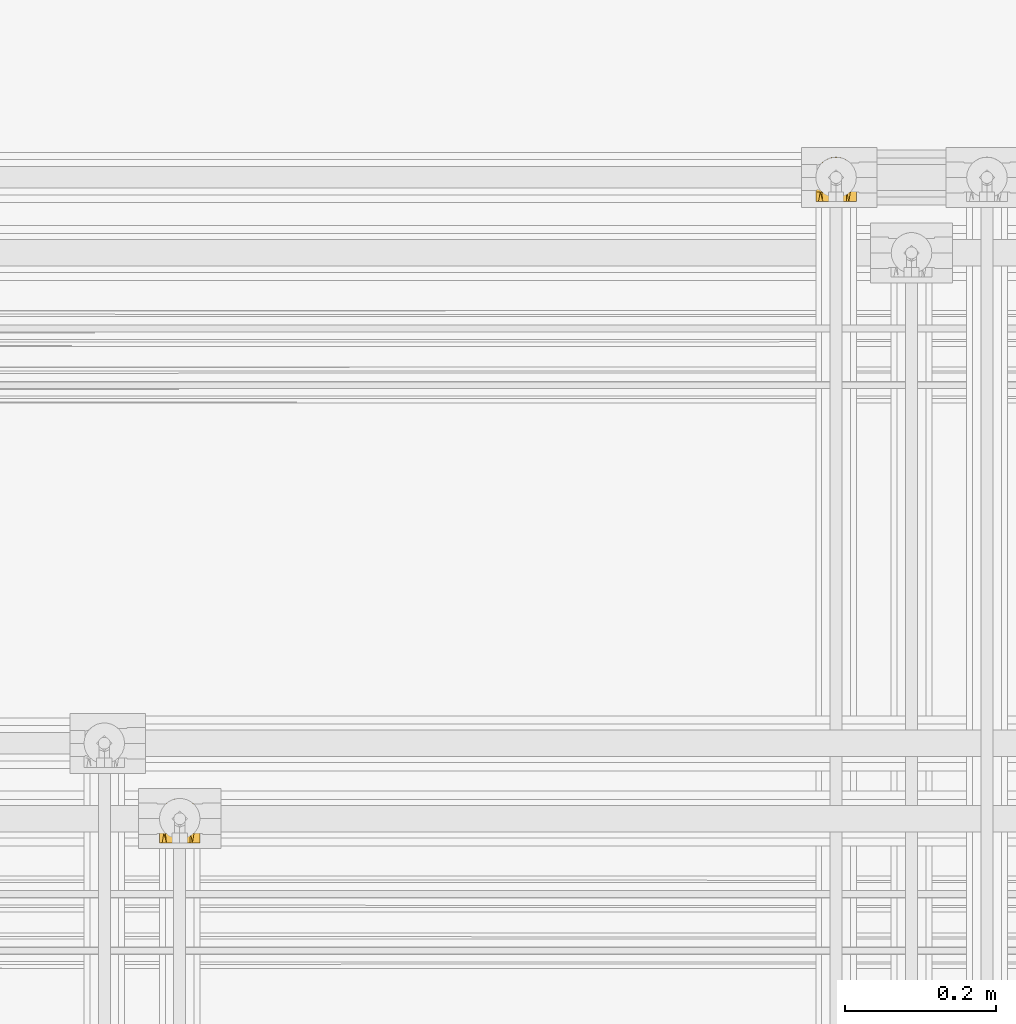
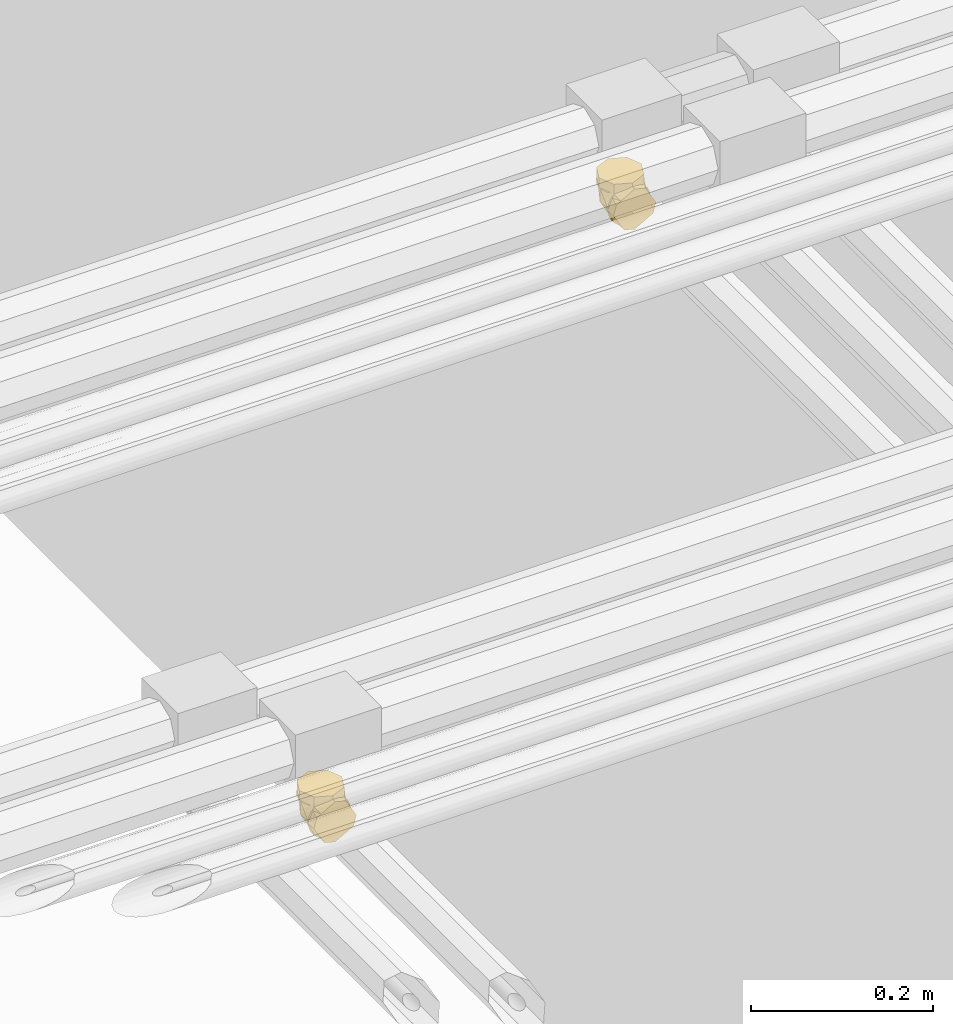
# One storey, part 362 of 652: 2 coverings.
"""IFC2X3 building model written with IfcOpenShell, lengths in millimetres."""

from ifc_helpers import new_model, entity, si_unit, converted_unit, direction, frame, origin, place, context, subcontext, project, spatial, face_set, surface_model, material, type_object, element, save


model = new_model("IFC2X3")

# Units and contexts
model_context = context("Model", 3, precision=0.01, world=frame((0.0, 0.0, 308426.39999999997)), true_north=direction((6.123233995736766e-17, 1.0)))
plan_context = context("Plan", 3, precision=0.01, world=frame((0.0, 0.0, 308426.39999999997)), true_north=direction((6.123233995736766e-17, 1.0)))
body_context = subcontext(model_context, "Body", "Model", "MODEL_VIEW")
ifc_project = project(units=[si_unit("LENGTHUNIT", "METRE", prefix="MILLI"), si_unit("AREAUNIT", "SQUARE_METRE"), si_unit("VOLUMEUNIT", "CUBIC_METRE"), converted_unit("PLANEANGLEUNIT", "DEGREE", entity("IfcPlaneAngleMeasure", 0.017453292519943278), si_unit("PLANEANGLEUNIT", "RADIAN"), dimensions=[0, 0, 0, 0, 0, 0, 0])], contexts=[model_context, plan_context])

# Site, building, storey
site_placement = place(None, origin())
site = spatial("IfcSite", under=ifc_project, at=site_placement, Name="Default", CompositionType="ELEMENT")
building_placement = place(site_placement, origin())
building = spatial("IfcBuilding", under=site, at=building_placement, CompositionType="ELEMENT")
storey_placement = place(building_placement, frame((0.0, 0.0, 1730.6999999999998)))
storey = spatial("IfcBuildingStorey", under=building, at=storey_placement, Name="EG_Produktion_FFB", CompositionType="ELEMENT", Elevation=1730.6999999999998)

# Coverings
ifc_material = material(Name="Dämmung - Armaflex-Schlauch")
covering_type = type_object("IfcCoveringType", Name="Rohrdämmung außen:Armaflex-Schlauch", PredefinedType="INSULATION")
covering_1_placement = place(storey_placement, frame((64541.467227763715, 41593.014699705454, 3671.4672277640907)))
element("IfcCovering", 1, at=covering_1_placement, inside=storey, type_object=covering_type, material=ifc_material, Name="Rohrdämmung außen:Armaflex-Schlauch", ObjectType="Rohrdämmung außen:Armaflex-Schlauch", PredefinedType="INSULATION", context=body_context, shape_type="SurfaceModel", body=[
    surface_model("IfcFaceBasedSurfaceModel", [(47.409122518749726, 12.766249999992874, 47.750272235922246), (51.38658262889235, 17.724287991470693, 47.750272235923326), (54.09156424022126, 23.47627931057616, 47.750272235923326), (55.373456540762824, 29.70195853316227, 47.75027223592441), (55.160884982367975, 36.054685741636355, 47.75027223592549), (53.465685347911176, 42.1807471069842, 47.75027223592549), (50.382244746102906, 47.7390493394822, 47.75027223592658), (46.08224622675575, 52.420111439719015, 47.75027223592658), (40.80510963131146, 55.963296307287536, 47.75027223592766), (34.84466092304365, 58.17132276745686, 47.75027223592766), (28.532772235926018, 58.921249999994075, 47.75027223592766), (22.220883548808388, 58.17132276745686, 47.75027223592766), (16.260434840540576, 55.963296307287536, 47.75027223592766), (10.983298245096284, 52.420111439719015, 47.75027223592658), (6.6832997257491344, 47.7390493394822, 47.75027223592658), (3.5998591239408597, 42.1807471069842, 47.75027223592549), (1.904659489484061, 36.054685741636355, 47.75027223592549), (1.6920879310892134, 29.70195853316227, 47.75027223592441), (2.973980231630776, 23.47627931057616, 47.750272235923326), (5.678961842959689, 17.724287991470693, 47.750272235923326), (9.656421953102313, 12.766249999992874, 47.750272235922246), (5.678961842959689, 12.766249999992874, 42.79223424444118), (2.973980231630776, 12.766249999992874, 37.04024292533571), (1.6920879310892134, 12.766249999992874, 30.81456370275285), (1.904659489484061, 12.766249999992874, 24.46183649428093), (3.5998591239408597, 12.766249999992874, 18.335775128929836), (6.6832997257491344, 12.766249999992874, 12.777472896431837), (10.983298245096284, 12.766250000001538, 8.096410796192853), (16.260434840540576, 12.766250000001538, 4.5532259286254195), (22.220883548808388, 12.766250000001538, 2.3451994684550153), (28.532772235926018, 12.766250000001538, 1.5952722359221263), (34.84466092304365, 12.766250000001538, 2.3451994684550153), (40.80510963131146, 12.766250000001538, 4.553225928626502), (46.08224622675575, 12.766250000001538, 8.096410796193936), (50.382244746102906, 12.766249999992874, 12.777472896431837), (53.465685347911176, 12.766249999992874, 18.33577512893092), (55.160884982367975, 12.766249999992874, 24.46183649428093), (55.373456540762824, 12.766249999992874, 30.81456370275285), (54.09156424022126, 12.766249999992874, 37.04024292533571), (51.38658262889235, 12.766249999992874, 42.79223424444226), (54.789888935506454, 21.445200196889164, 37.80769899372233), (28.531026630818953, 52.73631347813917, 24.673035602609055), (53.464388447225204, 33.565390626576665, 26.95080354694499), (50.729671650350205, 41.06260742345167, 47.75011537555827), (28.531026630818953, 31.030661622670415, 12.140079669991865), (42.78131959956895, 41.843955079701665, 17.33278596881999), (50.729671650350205, 12.766660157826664, 19.455330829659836), (14.285384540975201, 41.843955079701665, 17.33278596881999), (2.276815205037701, 21.445200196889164, 37.80769899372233), (3.5976648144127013, 33.565390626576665, 26.95080354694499), (6.337032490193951, 12.766660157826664, 19.455330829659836), (6.337032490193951, 41.06260742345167, 47.75011537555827), (42.81853892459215, 53.00389168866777, 60.51652223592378), (38.056616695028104, 54.97634445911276, 60.51652223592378), (33.29469446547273, 56.94879722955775, 60.5165222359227), (28.532772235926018, 58.921250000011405, 60.5165222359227), (23.770850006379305, 56.94879722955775, 60.5165222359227), (19.00892777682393, 54.97634445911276, 60.51652223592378), (14.247005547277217, 53.00389168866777, 60.51652223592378), (9.48508331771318, 51.03143891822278, 60.51652223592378), (7.512630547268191, 46.26951668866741, 60.51652223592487), (5.540177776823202, 41.507594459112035, 60.51652223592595), (3.567725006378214, 36.74567222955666, 60.51652223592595), (1.5952722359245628, 31.983750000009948, 60.516522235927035), (3.567725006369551, 27.221827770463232, 60.516522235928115), (5.540177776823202, 22.459905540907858, 60.516522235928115), (7.512630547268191, 17.697983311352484, 60.516522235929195), (9.48508331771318, 12.936061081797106, 60.51652223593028), (14.247005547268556, 10.963608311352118, 60.51652223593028), (19.00892777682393, 8.99115554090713, 60.51652223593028), (23.770850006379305, 7.018702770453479, 60.51652223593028), (28.532772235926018, 5.046250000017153, 60.51652223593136), (33.29469446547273, 7.018702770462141, 60.51652223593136), (38.056616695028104, 8.99115554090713, 60.51652223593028), (42.81853892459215, 10.963608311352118, 60.51652223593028), (47.58046115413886, 12.936061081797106, 60.51652223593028), (49.55291392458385, 17.697983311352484, 60.516522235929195), (51.525366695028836, 22.459905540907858, 60.516522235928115), (53.497819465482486, 27.22182777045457, 60.516522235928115), (55.47027223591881, 31.983750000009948, 60.516522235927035), (53.497819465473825, 36.74567222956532, 60.51652223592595), (51.525366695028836, 41.507594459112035, 60.51652223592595), (49.55291392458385, 46.26951668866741, 60.51652223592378), (47.58046115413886, 51.03143891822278, 60.51652223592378), (28.532772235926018, 58.92125000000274, 47.75027223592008), (33.29469446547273, 56.948797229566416, 47.75027223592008), (38.056616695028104, 54.97634445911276, 47.75027223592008), (42.818538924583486, 53.00389168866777, 47.750272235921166), (47.58046115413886, 51.03143891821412, 47.750272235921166), (49.96980627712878, 45.26304951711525, 47.750272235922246), (52.35915140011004, 39.49466011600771, 47.750272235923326), (55.47027223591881, 31.983750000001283, 47.75027223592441), (53.497819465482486, 27.22182777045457, 47.75027223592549), (51.525366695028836, 22.459905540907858, 47.75027223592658), (49.55291392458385, 17.697983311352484, 47.75027223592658), (47.58046115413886, 12.936061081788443, 47.75027223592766), (41.81207175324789, 10.546715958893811, 47.75027223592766), (36.04368235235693, 8.157370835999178, 47.75027223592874), (28.532772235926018, 5.046250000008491, 47.75027223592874), (23.770850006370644, 7.018702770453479, 47.75027223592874), (19.00892777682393, 8.99115554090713, 47.75027223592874), (14.247005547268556, 10.963608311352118, 47.75027223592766), (9.48508331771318, 12.936061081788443, 47.75027223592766), (7.095738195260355, 18.704450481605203, 47.75027223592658), (4.706393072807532, 24.472839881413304, 47.75027223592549), (1.5952722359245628, 31.983750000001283, 47.75027223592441), (3.567725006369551, 36.74567222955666, 47.750272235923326), (5.540177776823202, 41.507594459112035, 47.750272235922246), (7.512630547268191, 46.26951668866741, 47.750272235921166), (9.48508331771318, 51.03143891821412, 47.750272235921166), (15.253472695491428, 53.420784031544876, 47.750272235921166), (21.021862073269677, 55.810129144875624, 47.75027223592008), (28.532772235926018, 0.0, 1.595272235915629), (34.36491206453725, 0.0, 4.962459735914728), (40.197051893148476, 0.0, 8.32964723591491), (46.02919172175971, 0.0, 11.696834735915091), (51.86133155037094, 0.0, 15.064022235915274), (53.66580189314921, 0.0, 21.798397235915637), (55.470272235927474, 0.0, 28.532772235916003), (52.10308473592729, 0.0, 34.36491206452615), (48.73589723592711, 0.0, 40.19705189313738), (45.36870973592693, 0.0, 46.02919172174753), (42.00152223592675, 0.0, 51.861331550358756), (35.26714723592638, 0.0, 53.66580189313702), (28.532772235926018, 0.0, 55.470272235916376), (22.70063240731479, 0.0, 52.10308473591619), (16.86849257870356, 0.0, 48.73589723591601), (11.036352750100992, 0.0, 45.368709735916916), (5.204212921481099, 0.0, 42.00152223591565), (3.399742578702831, 0.0, 35.26714723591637), (1.5952722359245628, 0.0, 28.532772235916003), (4.962459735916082, 0.0, 22.700632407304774), (8.329647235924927, 0.0, 16.868492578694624), (11.696834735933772, 0.0, 11.036352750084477), (15.064022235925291, 0.0, 5.204212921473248), (21.798397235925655, 0.0, 3.3997425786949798), (28.532772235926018, 12.766250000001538, 1.595272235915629), (23.770850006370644, 12.766250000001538, 3.567725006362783), (19.00892777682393, 12.766250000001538, 5.5401777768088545), (14.247005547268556, 12.766250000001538, 7.512630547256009), (9.48508331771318, 12.766250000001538, 9.485083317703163), (7.512630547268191, 12.766250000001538, 14.247005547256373), (5.540177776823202, 12.766250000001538, 19.008927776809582), (3.567725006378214, 12.766250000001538, 23.770850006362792), (1.5952722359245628, 12.766250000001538, 28.532772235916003), (3.567725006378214, 12.766250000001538, 33.29469446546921), (5.540177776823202, 12.766250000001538, 38.05661669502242), (7.512630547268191, 12.766250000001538, 42.818538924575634), (9.48508331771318, 12.766250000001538, 47.58046115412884), (14.247005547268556, 12.766250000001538, 49.552913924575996), (19.00892777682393, 12.766250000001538, 51.52536669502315), (23.770850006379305, 12.766250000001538, 53.49781946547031), (28.532772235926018, 12.766250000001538, 55.470272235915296), (33.29469446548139, 12.766250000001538, 53.49781946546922), (38.056616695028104, 12.766250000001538, 51.52536669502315), (42.81853892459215, 12.766250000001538, 49.552913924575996), (47.58046115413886, 12.766250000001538, 47.58046115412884), (49.55291392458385, 12.766250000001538, 42.818538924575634), (51.525366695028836, 12.766250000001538, 38.05661669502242), (53.497819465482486, 12.766250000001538, 33.29469446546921), (55.470272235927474, 12.766250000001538, 28.532772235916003), (53.497819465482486, 12.766250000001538, 23.770850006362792), (51.525366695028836, 12.766250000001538, 19.008927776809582), (49.55291392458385, 12.766250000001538, 14.247005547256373), (47.58046115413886, 12.766250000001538, 9.485083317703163), (42.818538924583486, 12.766250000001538, 7.512630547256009), (38.056616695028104, 12.766250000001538, 5.5401777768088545), (33.29469446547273, 12.766250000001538, 3.5677250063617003)], [face_set([[[0, 1, 2, 3, 4, 5, 6, 7, 8, 9, 10, 11, 12, 13, 14, 15, 16, 17, 18, 19]], [[20, 21, 22, 23, 24, 25, 26, 27, 28, 29, 30, 31, 32, 33, 34, 35, 36, 37, 38, 39]], [[0, 40, 3]], [[10, 7, 41]], [[37, 42, 40]], [[42, 7, 43]], [[37, 40, 0]], [[3, 40, 42]], [[44, 41, 45]], [[7, 45, 41]], [[33, 30, 44]], [[44, 45, 33]], [[42, 33, 45]], [[42, 37, 46]], [[7, 42, 45]], [[43, 3, 42]], [[46, 33, 42]], [[13, 10, 41]], [[27, 47, 44]], [[44, 30, 27]], [[48, 49, 23]], [[49, 27, 50, 23]], [[17, 49, 48]], [[44, 47, 41]], [[20, 48, 23]], [[47, 49, 13]], [[17, 48, 20]], [[41, 47, 13]], [[49, 17, 51]], [[27, 49, 47]], [[51, 13, 49]]]), face_set([[[52, 53, 54, 55, 56, 57, 58, 59, 60, 61, 62, 63, 64, 65, 66, 67, 68, 69, 70, 71, 72, 73, 74, 75, 76, 77, 78, 79, 80, 81, 82, 83]], [[84, 85, 86, 87, 88, 89, 90, 91, 92, 93, 94, 95, 96, 97, 98, 99, 100, 101, 102, 103, 104, 105, 106, 107, 108, 109, 110, 111]], [[111, 110, 109, 59, 58, 57, 56, 55, 84]], [[59, 109, 108, 107, 106, 105, 63, 62, 61, 60]], [[104, 103, 102, 67, 66, 65, 64, 63, 105]], [[67, 102, 101, 100, 99, 98, 71, 70, 69, 68]], [[97, 96, 95, 75, 74, 73, 72, 71, 98]], [[75, 95, 94, 93, 92, 91, 79, 78, 77, 76]], [[90, 89, 88, 83, 82, 81, 80, 79, 91]], [[83, 88, 87, 86, 85, 84, 55, 54, 53, 52]]]), face_set([[[112, 113, 114, 115, 116, 117, 118, 119, 120, 121, 122, 123, 124, 125, 126, 127, 128, 129, 130, 131, 132, 133, 134, 135]], [[136, 137, 138, 139, 140, 141, 142, 143, 144, 145, 146, 147, 148, 149, 150, 151, 152, 153, 154, 155, 156, 157, 158, 159, 160, 161, 162, 163, 164, 165, 166, 167]], [[155, 121, 156]], [[118, 159, 119]], [[159, 158, 119]], [[123, 154, 153]], [[153, 152, 124]], [[121, 155, 122]], [[120, 158, 157]], [[118, 160, 159]], [[158, 120, 119]], [[124, 123, 153]], [[157, 156, 121]], [[155, 154, 122]], [[123, 122, 154]], [[120, 157, 121]], [[163, 115, 164]], [[112, 167, 113]], [[167, 166, 113]], [[117, 162, 161]], [[161, 160, 118]], [[115, 163, 116]], [[114, 166, 165]], [[112, 136, 167]], [[166, 114, 113]], [[118, 117, 161]], [[165, 164, 115]], [[163, 162, 116]], [[117, 116, 162]], [[114, 165, 115]], [[139, 133, 140]], [[130, 143, 131]], [[143, 142, 131]], [[135, 138, 137]], [[137, 136, 112]], [[133, 139, 134]], [[132, 142, 141]], [[130, 144, 143]], [[142, 132, 131]], [[112, 135, 137]], [[141, 140, 133]], [[139, 138, 134]], [[135, 134, 138]], [[132, 141, 133]], [[147, 127, 148]], [[124, 151, 125]], [[151, 150, 125]], [[129, 146, 145]], [[145, 144, 130]], [[127, 147, 128]], [[126, 150, 149]], [[124, 152, 151]], [[150, 126, 125]], [[130, 129, 145]], [[149, 148, 127]], [[147, 146, 128]], [[129, 128, 146]], [[126, 149, 127]]])]),
])
covering_2_placement = place(storey_placement, frame((63671.46722776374, 40743.01624999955, 3671.467227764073)))
element("IfcCovering", 2, at=covering_2_placement, inside=storey, type_object=covering_type, material=ifc_material, Name="Rohrdämmung außen:Armaflex-Schlauch", ObjectType="Rohrdämmung außen:Armaflex-Schlauch", PredefinedType="INSULATION", context=body_context, shape_type="SurfaceModel", body=[
    surface_model("IfcFaceBasedSurfaceModel", [(47.409122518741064, 12.766249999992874, 47.750272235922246), (51.38658262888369, 17.724287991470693, 47.750272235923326), (54.0915642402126, 23.47627931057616, 47.750272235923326), (55.37345654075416, 29.70195853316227, 47.75027223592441), (55.16088498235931, 36.054685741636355, 47.75027223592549), (53.465685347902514, 42.1807471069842, 47.75027223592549), (50.38224474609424, 47.7390493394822, 47.75027223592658), (46.08224622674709, 52.420111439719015, 47.75027223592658), (40.8051096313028, 55.963296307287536, 47.75027223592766), (34.844660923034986, 58.17132276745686, 47.75027223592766), (28.532772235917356, 58.921249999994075, 47.75027223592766), (22.220883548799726, 58.17132276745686, 47.75027223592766), (16.26043484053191, 55.963296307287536, 47.75027223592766), (10.983298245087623, 52.420111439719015, 47.75027223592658), (6.683299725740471, 47.7390493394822, 47.75027223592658), (3.599859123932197, 42.1807471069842, 47.75027223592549), (1.904659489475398, 36.054685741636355, 47.75027223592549), (1.6920879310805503, 29.70195853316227, 47.75027223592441), (2.973980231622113, 23.47627931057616, 47.750272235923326), (5.678961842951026, 17.724287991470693, 47.750272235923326), (9.65642195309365, 12.766249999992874, 47.750272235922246), (5.678961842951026, 12.766249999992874, 42.79223424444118), (2.973980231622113, 12.766249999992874, 37.04024292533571), (1.6920879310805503, 12.766249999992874, 30.81456370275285), (1.904659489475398, 12.766249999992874, 24.46183649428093), (3.599859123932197, 12.766249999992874, 18.335775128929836), (6.683299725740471, 12.766249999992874, 12.777472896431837), (10.983298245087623, 12.766250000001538, 8.096410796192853), (16.26043484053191, 12.766250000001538, 4.5532259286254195), (22.220883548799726, 12.766250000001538, 2.3451994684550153), (28.532772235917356, 12.766250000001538, 1.5952722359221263), (34.844660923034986, 12.766250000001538, 2.3451994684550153), (40.8051096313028, 12.766250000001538, 4.553225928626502), (46.08224622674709, 12.766250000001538, 8.096410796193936), (50.38224474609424, 12.766249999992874, 12.777472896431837), (53.465685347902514, 12.766249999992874, 18.33577512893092), (55.16088498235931, 12.766249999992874, 24.46183649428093), (55.37345654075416, 12.766249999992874, 30.81456370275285), (54.0915642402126, 12.766249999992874, 37.04024292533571), (51.38658262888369, 12.766249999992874, 42.79223424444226), (54.787178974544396, 21.449020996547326, 37.80769899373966), (28.532967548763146, 52.73548339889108, 24.673035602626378), (53.46632936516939, 33.564560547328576, 26.950803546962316), (50.72696168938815, 41.06177734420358, 47.7501153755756), (28.532967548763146, 31.029831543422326, 12.140079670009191), (42.778609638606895, 41.843125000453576, 17.332785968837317), (50.72696168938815, 12.765830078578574, 19.45533082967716), (14.287325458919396, 41.843125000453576, 17.332785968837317), (2.274105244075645, 21.449020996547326, 37.80769899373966), (3.599605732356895, 33.564560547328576, 26.950803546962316), (6.338973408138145, 12.765830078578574, 19.45533082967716), (6.338973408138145, 41.06177734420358, 47.7501153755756), (42.818538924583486, 53.00389168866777, 60.51652223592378), (38.056616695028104, 54.97634445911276, 60.51652223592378), (33.29469446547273, 56.94879722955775, 60.5165222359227), (28.532772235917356, 58.921250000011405, 60.5165222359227), (23.77085000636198, 56.948797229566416, 60.5165222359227), (19.008927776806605, 54.97634445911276, 60.51652223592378), (14.247005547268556, 53.00389168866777, 60.51652223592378), (9.485083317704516, 51.03143891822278, 60.51652223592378), (7.512630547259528, 46.26951668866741, 60.51652223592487), (5.540177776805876, 41.507594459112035, 60.51652223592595), (3.567725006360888, 36.74567222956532, 60.51652223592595), (1.5952722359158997, 31.983750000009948, 60.516522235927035), (3.567725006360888, 27.221827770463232, 60.516522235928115), (5.540177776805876, 22.459905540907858, 60.516522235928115), (7.512630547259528, 17.697983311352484, 60.516522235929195), (9.485083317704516, 12.936061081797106, 60.51652223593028), (14.247005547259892, 10.963608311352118, 60.51652223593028), (19.008927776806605, 8.99115554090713, 60.51652223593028), (23.77085000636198, 7.018702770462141, 60.51652223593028), (28.532772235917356, 5.046250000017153, 60.51652223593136), (33.29469446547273, 7.018702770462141, 60.51652223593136), (38.056616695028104, 8.99115554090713, 60.51652223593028), (42.818538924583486, 10.963608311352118, 60.51652223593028), (47.5804611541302, 12.936061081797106, 60.51652223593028), (49.552913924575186, 17.697983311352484, 60.516522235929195), (51.525366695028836, 22.459905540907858, 60.516522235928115), (53.497819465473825, 27.221827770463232, 60.516522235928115), (55.47027223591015, 31.983750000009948, 60.516522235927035), (53.49781946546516, 36.74567222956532, 60.51652223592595), (51.525366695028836, 41.507594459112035, 60.51652223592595), (49.552913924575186, 46.26951668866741, 60.51652223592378), (47.5804611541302, 51.03143891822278, 60.51652223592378), (28.532772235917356, 58.92125000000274, 47.75027223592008), (33.29469446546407, 56.948797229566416, 47.75027223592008), (38.056616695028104, 54.97634445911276, 47.75027223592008), (42.81853892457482, 53.00389168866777, 47.750272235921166), (47.5804611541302, 51.03143891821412, 47.750272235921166), (49.96980627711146, 45.26304951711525, 47.750272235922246), (52.35915140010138, 39.49466011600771, 47.750272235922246), (55.47027223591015, 31.983750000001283, 47.75027223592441), (53.497819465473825, 27.22182777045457, 47.75027223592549), (51.525366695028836, 22.459905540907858, 47.75027223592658), (49.552913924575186, 17.697983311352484, 47.75027223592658), (47.5804611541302, 12.936061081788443, 47.75027223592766), (41.81207175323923, 10.546715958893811, 47.75027223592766), (36.04368235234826, 8.157370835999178, 47.75027223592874), (28.532772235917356, 5.046250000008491, 47.75027223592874), (23.770850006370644, 7.018702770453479, 47.75027223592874), (19.008927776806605, 8.99115554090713, 47.75027223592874), (14.247005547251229, 10.963608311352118, 47.75027223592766), (9.485083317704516, 12.936061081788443, 47.75027223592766), (7.095738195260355, 18.704450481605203, 47.75027223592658), (4.706393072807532, 24.472839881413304, 47.75027223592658), (1.5952722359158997, 31.983750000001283, 47.75027223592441), (3.567725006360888, 36.74567222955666, 47.750272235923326), (5.540177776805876, 41.507594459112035, 47.750272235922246), (7.512630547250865, 46.26951668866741, 47.750272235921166), (9.485083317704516, 51.03143891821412, 47.750272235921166), (15.253472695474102, 53.420784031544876, 47.750272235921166), (21.021862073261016, 55.81012914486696, 47.75027223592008), (28.532772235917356, 0.0, 1.595272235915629), (34.36491206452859, 0.0, 4.962459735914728), (40.197051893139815, 0.0, 8.32964723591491), (46.02919172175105, 0.0, 11.696834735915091), (51.86133155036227, 0.0, 15.064022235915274), (53.66580189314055, 0.0, 21.798397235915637), (55.47027223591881, 0.0, 28.532772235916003), (52.10308473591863, 0.0, 34.36491206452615), (48.73589723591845, 0.0, 40.19705189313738), (45.368709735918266, 0.0, 46.02919172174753), (42.00152223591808, 0.0, 51.861331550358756), (35.26714723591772, 0.0, 53.66580189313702), (28.532772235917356, 0.0, 55.470272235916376), (22.700632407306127, 0.0, 52.10308473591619), (16.868492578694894, 0.0, 48.73589723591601), (11.036352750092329, 0.0, 45.368709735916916), (5.204212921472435, 0.0, 42.00152223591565), (3.3997425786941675, 0.0, 35.26714723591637), (1.5952722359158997, 0.0, 28.532772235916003), (4.962459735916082, 0.0, 22.700632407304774), (8.329647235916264, 0.0, 16.868492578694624), (11.696834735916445, 0.0, 11.036352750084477), (15.064022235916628, 0.0, 5.204212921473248), (21.79839723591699, 0.0, 3.3997425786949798), (28.532772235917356, 12.766250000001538, 1.595272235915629), (23.77085000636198, 12.766250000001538, 3.567725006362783), (19.008927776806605, 12.766250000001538, 5.5401777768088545), (14.247005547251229, 12.766250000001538, 7.512630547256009), (9.485083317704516, 12.766250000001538, 9.485083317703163), (7.512630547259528, 12.766250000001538, 14.247005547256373), (5.540177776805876, 12.766250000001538, 19.008927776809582), (3.567725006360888, 12.766250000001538, 23.770850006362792), (1.5952722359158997, 12.766250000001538, 28.532772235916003), (3.567725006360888, 12.766250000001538, 33.29469446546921), (5.540177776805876, 12.766250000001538, 38.05661669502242), (7.512630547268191, 12.766250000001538, 42.818538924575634), (9.485083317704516, 12.766250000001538, 47.58046115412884), (14.247005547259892, 12.766250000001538, 49.552913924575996), (19.008927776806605, 12.766250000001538, 51.52536669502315), (23.77085000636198, 12.766250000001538, 53.49781946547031), (28.532772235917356, 12.766250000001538, 55.470272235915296), (33.29469446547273, 12.766250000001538, 53.49781946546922), (38.056616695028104, 12.766250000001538, 51.52536669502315), (42.81853892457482, 12.766250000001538, 49.552913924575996), (47.5804611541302, 12.766250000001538, 47.58046115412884), (49.552913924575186, 12.766250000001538, 42.818538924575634), (51.525366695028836, 12.766250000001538, 38.05661669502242), (53.497819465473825, 12.766250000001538, 33.29469446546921), (55.47027223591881, 12.766250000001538, 28.532772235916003), (53.497819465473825, 12.766250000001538, 23.770850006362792), (51.525366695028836, 12.766250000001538, 19.008927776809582), (49.552913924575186, 12.766250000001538, 14.247005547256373), (47.5804611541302, 12.766250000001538, 9.485083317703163), (42.818538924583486, 12.766250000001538, 7.512630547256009), (38.056616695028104, 12.766250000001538, 5.5401777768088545), (33.29469446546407, 12.766250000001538, 3.5677250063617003)], [face_set([[[0, 1, 2, 3, 4, 5, 6, 7, 8, 9, 10, 11, 12, 13, 14, 15, 16, 17, 18, 19]], [[20, 21, 22, 23, 24, 25, 26, 27, 28, 29, 30, 31, 32, 33, 34, 35, 36, 37, 38, 39]], [[0, 40, 3]], [[10, 7, 41]], [[37, 42, 40]], [[42, 7, 43]], [[37, 40, 0]], [[3, 40, 42]], [[44, 41, 45]], [[7, 45, 41]], [[33, 30, 44]], [[44, 45, 33]], [[42, 33, 45]], [[42, 37, 46, 33]], [[7, 42, 45]], [[43, 3, 42]], [[13, 10, 41]], [[27, 47, 44]], [[44, 30, 27]], [[48, 49, 23]], [[49, 27, 50, 23]], [[17, 49, 48]], [[44, 47, 41]], [[20, 48, 23]], [[47, 49, 13]], [[17, 48, 20]], [[41, 47, 13]], [[49, 17, 51]], [[27, 49, 47]], [[51, 13, 49]]]), face_set([[[52, 53, 54, 55, 56, 57, 58, 59, 60, 61, 62, 63, 64, 65, 66, 67, 68, 69, 70, 71, 72, 73, 74, 75, 76, 77, 78, 79, 80, 81, 82, 83]], [[84, 85, 86, 87, 88, 89, 90, 91, 92, 93, 94, 95, 96, 97, 98, 99, 100, 101, 102, 103, 104, 105, 106, 107, 108, 109, 110, 111]], [[111, 110, 109, 59, 58, 57, 56, 55, 84]], [[59, 109, 108, 107, 106, 105, 63, 62, 61, 60]], [[104, 103, 102, 67, 66, 65, 64, 63, 105]], [[67, 102, 101, 100, 99, 98, 71, 70, 69, 68]], [[97, 96, 95, 75, 74, 73, 72, 71, 98]], [[75, 95, 94, 93, 92, 91, 79, 78, 77, 76]], [[90, 89, 88, 83, 82, 81, 80, 79, 91]], [[83, 88, 87, 86, 85, 84, 55, 54, 53, 52]]]), face_set([[[112, 113, 114, 115, 116, 117, 118, 119, 120, 121, 122, 123, 124, 125, 126, 127, 128, 129, 130, 131, 132, 133, 134, 135]], [[136, 137, 138, 139, 140, 141, 142, 143, 144, 145, 146, 147, 148, 149, 150, 151, 152, 153, 154, 155, 156, 157, 158, 159, 160, 161, 162, 163, 164, 165, 166, 167]], [[155, 121, 156]], [[118, 159, 119]], [[159, 158, 119]], [[123, 154, 153]], [[153, 152, 124]], [[121, 155, 122]], [[120, 158, 157]], [[118, 160, 159]], [[158, 120, 119]], [[124, 123, 153]], [[157, 156, 121]], [[155, 154, 122]], [[123, 122, 154]], [[120, 157, 121]], [[163, 115, 164]], [[112, 167, 113]], [[167, 166, 113]], [[117, 162, 161]], [[161, 160, 118]], [[115, 163, 116]], [[114, 166, 165]], [[112, 136, 167]], [[166, 114, 113]], [[118, 117, 161]], [[165, 164, 115]], [[163, 162, 116]], [[117, 116, 162]], [[114, 165, 115]], [[139, 133, 140]], [[130, 143, 131]], [[143, 142, 131]], [[135, 138, 137]], [[137, 136, 112]], [[133, 139, 134]], [[132, 142, 141]], [[130, 144, 143]], [[142, 132, 131]], [[112, 135, 137]], [[141, 140, 133]], [[139, 138, 134]], [[135, 134, 138]], [[132, 141, 133]], [[147, 127, 148]], [[124, 151, 125]], [[151, 150, 125]], [[129, 146, 145]], [[145, 144, 130]], [[127, 147, 128]], [[126, 150, 149]], [[124, 152, 151]], [[150, 126, 125]], [[130, 129, 145]], [[149, 148, 127]], [[147, 146, 128]], [[129, 128, 146]], [[126, 149, 127]]])]),
])

save(model, "model.ifc")
